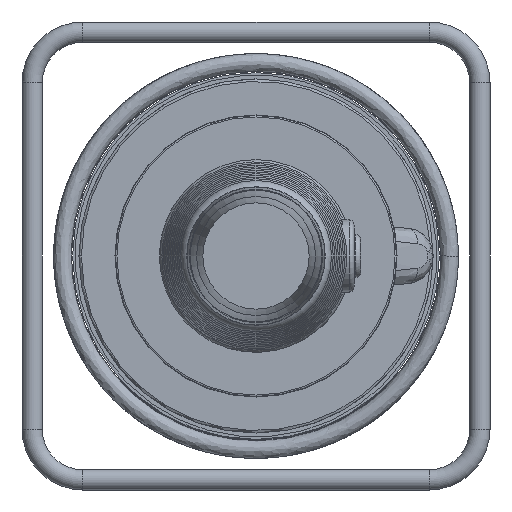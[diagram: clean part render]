
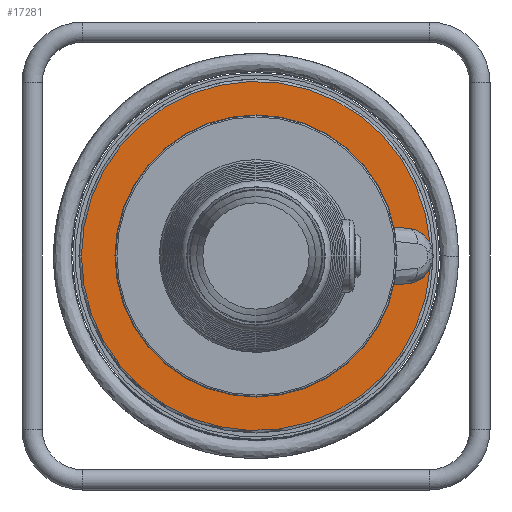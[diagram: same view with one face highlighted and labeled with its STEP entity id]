
A CAD part, left-side view. The second image highlights one B-rep face of the part: STEP entity #17281.
In plain terms, the highlighted planar face has unit normal (-1, 0, 0).
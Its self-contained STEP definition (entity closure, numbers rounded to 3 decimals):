
#821=PLANE('',#18319);
#2615=LINE('',#43054,#3553);
#2621=LINE('',#43389,#3559);
#3553=VECTOR('',#21206,10.);
#3559=VECTOR('',#21262,10.);
#4491=FACE_OUTER_BOUND('',#5540,.T.);
#5540=EDGE_LOOP('',(#15063,#15064,#15065,#15066,#15067,#15068,#15069,#15070,
#15071));
#5857=CIRCLE('',#17666,138.);
#6127=CIRCLE('',#18248,10.);
#6134=CIRCLE('',#18258,22.);
#6135=CIRCLE('',#18259,22.);
#6149=CIRCLE('',#18280,10.);
#6150=CIRCLE('',#18283,138.);
#6173=CIRCLE('',#18318,91.5);
#6608=VERTEX_POINT('',#26498);
#6611=VERTEX_POINT('',#26504);
#7897=VERTEX_POINT('',#42993);
#7898=VERTEX_POINT('',#42995);
#7907=VERTEX_POINT('',#43052);
#7910=VERTEX_POINT('',#43073);
#7911=VERTEX_POINT('',#43076);
#7926=VERTEX_POINT('',#43370);
#7927=VERTEX_POINT('',#43385);
#8351=EDGE_CURVE('',#6611,#6608,#5857,.T.);
#10276=EDGE_CURVE('',#7898,#7897,#6127,.T.);
#10289=EDGE_CURVE('',#7897,#7907,#2615,.T.);
#10293=EDGE_CURVE('',#6611,#7910,#6134,.T.);
#10295=EDGE_CURVE('',#7907,#7911,#6135,.T.);
#10322=EDGE_CURVE('',#7927,#7926,#6149,.T.);
#10324=EDGE_CURVE('',#7910,#7927,#2621,.T.);
#10325=EDGE_CURVE('',#6608,#7911,#6150,.T.);
#10351=EDGE_CURVE('',#7926,#7898,#6173,.T.);
#15063=ORIENTED_EDGE('',*,*,#10295,.T.);
#15064=ORIENTED_EDGE('',*,*,#10325,.F.);
#15065=ORIENTED_EDGE('',*,*,#8351,.F.);
#15066=ORIENTED_EDGE('',*,*,#10293,.T.);
#15067=ORIENTED_EDGE('',*,*,#10324,.T.);
#15068=ORIENTED_EDGE('',*,*,#10322,.T.);
#15069=ORIENTED_EDGE('',*,*,#10351,.T.);
#15070=ORIENTED_EDGE('',*,*,#10276,.T.);
#15071=ORIENTED_EDGE('',*,*,#10289,.T.);
#17281=ADVANCED_FACE('',(#4491),#821,.T.);
#17666=AXIS2_PLACEMENT_3D('',#26515,#19158,#19159);
#18248=AXIS2_PLACEMENT_3D('',#42996,#21186,#21187);
#18258=AXIS2_PLACEMENT_3D('',#43075,#21210,#21211);
#18259=AXIS2_PLACEMENT_3D('',#43087,#21212,#21213);
#18280=AXIS2_PLACEMENT_3D('',#43386,#21257,#21258);
#18283=AXIS2_PLACEMENT_3D('',#43391,#21265,#21266);
#18318=AXIS2_PLACEMENT_3D('',#43443,#21338,#21339);
#18319=AXIS2_PLACEMENT_3D('',#43444,#21340,#21341);
#19158=DIRECTION('center_axis',(1.,0.,0.));
#19159=DIRECTION('ref_axis',(0.,0.,
1.));
#21186=DIRECTION('center_axis',(-1.,0.,0.));
#21187=DIRECTION('ref_axis',(0.,0.934,-0.358));
#21206=DIRECTION('',(0.,-0.996,-0.087));
#21210=DIRECTION('center_axis',(1.,0.,0.));
#21211=DIRECTION('ref_axis',(0.,0.087,0.996));
#21212=DIRECTION('center_axis',(1.,0.,0.));
#21213=DIRECTION('ref_axis',(0.,0.087,0.996));
#21257=DIRECTION('center_axis',(-1.,0.,0.));
#21258=DIRECTION('ref_axis',(0.,0.087,0.996));
#21262=DIRECTION('',(0.,0.996,-0.087));
#21265=DIRECTION('center_axis',(1.,0.,0.));
#21266=DIRECTION('ref_axis',(0.,0.,
1.));
#21338=DIRECTION('center_axis',(1.,0.,0.));
#21339=DIRECTION('ref_axis',(0.,0.,
1.));
#21340=DIRECTION('center_axis',(-1.,0.,0.));
#21341=DIRECTION('ref_axis',(0.,1.,0.));
#26498=CARTESIAN_POINT('',(-17.009,137.996,0.));
#26504=CARTESIAN_POINT('',(-17.009,-137.649,-9.905));
#26515=CARTESIAN_POINT('Origin',(-17.009,-0.004,
0.));
#42993=CARTESIAN_POINT('',(-17.009,-89.231,24.601));
#42995=CARTESIAN_POINT('',(-17.009,-88.088,24.768));
#42996=CARTESIAN_POINT('Origin',(-17.009,-90.102,34.563));
#43052=CARTESIAN_POINT('',(-17.009,-119.922,21.916));
#43054=CARTESIAN_POINT('',(-17.009,-41.043,28.817));
#43073=CARTESIAN_POINT('',(-17.009,-119.922,-21.916));
#43075=CARTESIAN_POINT('Origin',(-17.009,-118.004,0.));
#43076=CARTESIAN_POINT('',(-17.009,-137.649,9.905));
#43087=CARTESIAN_POINT('Origin',(-17.009,-118.004,0.));
#43370=CARTESIAN_POINT('',(-17.009,-88.088,-24.768));
#43385=CARTESIAN_POINT('',(-17.009,-89.231,-24.601));
#43386=CARTESIAN_POINT('Origin',(-17.009,-90.102,-34.563));
#43389=CARTESIAN_POINT('',(-17.009,-66.352,-26.603));
#43391=CARTESIAN_POINT('Origin',(-17.009,-0.004,
0.));
#43443=CARTESIAN_POINT('Origin',(-17.009,-0.004,
0.));
#43444=CARTESIAN_POINT('Origin',(-17.009,-0.004,
114.75));
